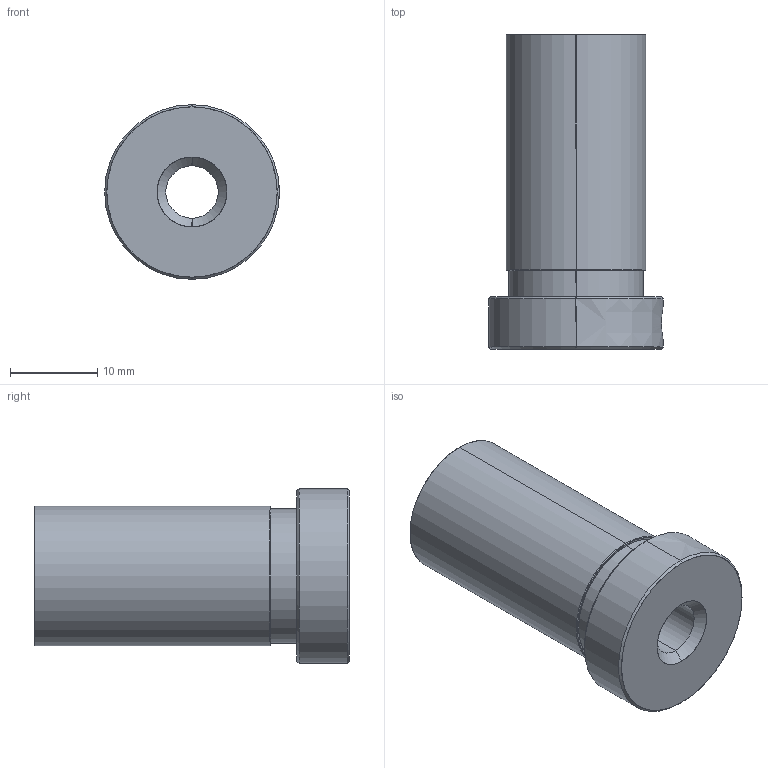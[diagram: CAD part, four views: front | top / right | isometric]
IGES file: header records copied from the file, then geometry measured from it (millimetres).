
Start section: SolidWorks IGES file using analytic representation for surfaces
Global section: file name: G:\Dropbox (Almo)\XPS 8700\Documents\Almo\SolidWorks Files\New Products (2018)\Sprue Puller\IGES\SP16.36.IGS; native system: SolidWorks 2014; preprocessor: SolidWorks 2014; author: Victor; date: 190731.135626; units: millimetre
Bounding box: 20 x 36 x 20 mm (x, y, z)
Surface area: 3396.1 mm2 (no closed solid volume)
Topology: 0 solids, 0 shells, 34 faces, 550 edges, 548 vertices
Faces by surface type: revolution 28, bspline 6
